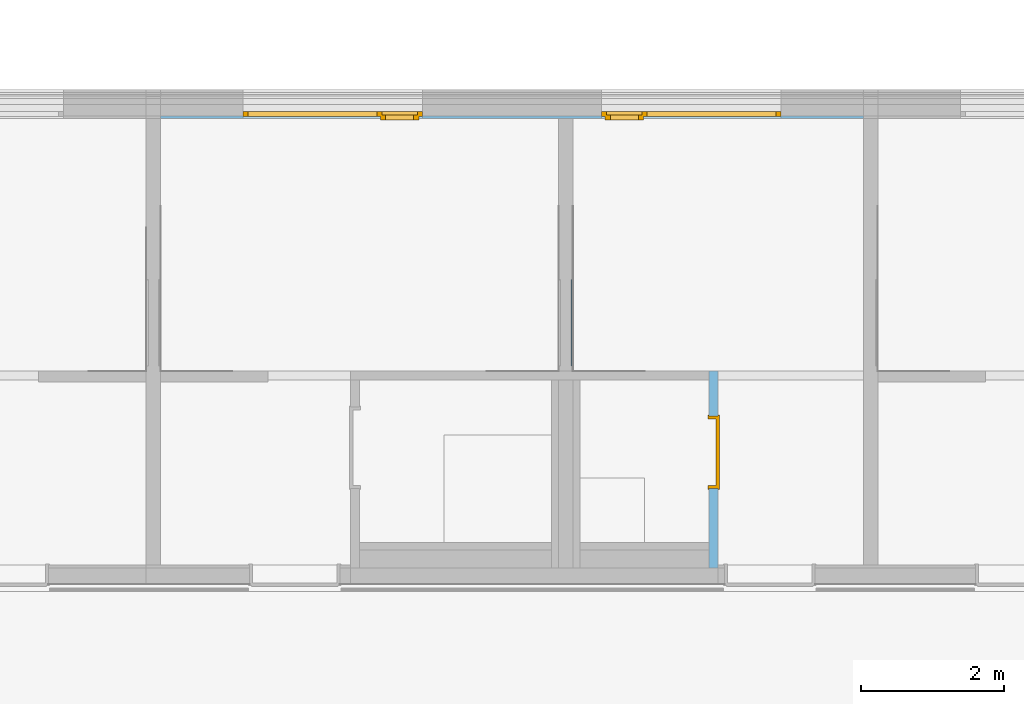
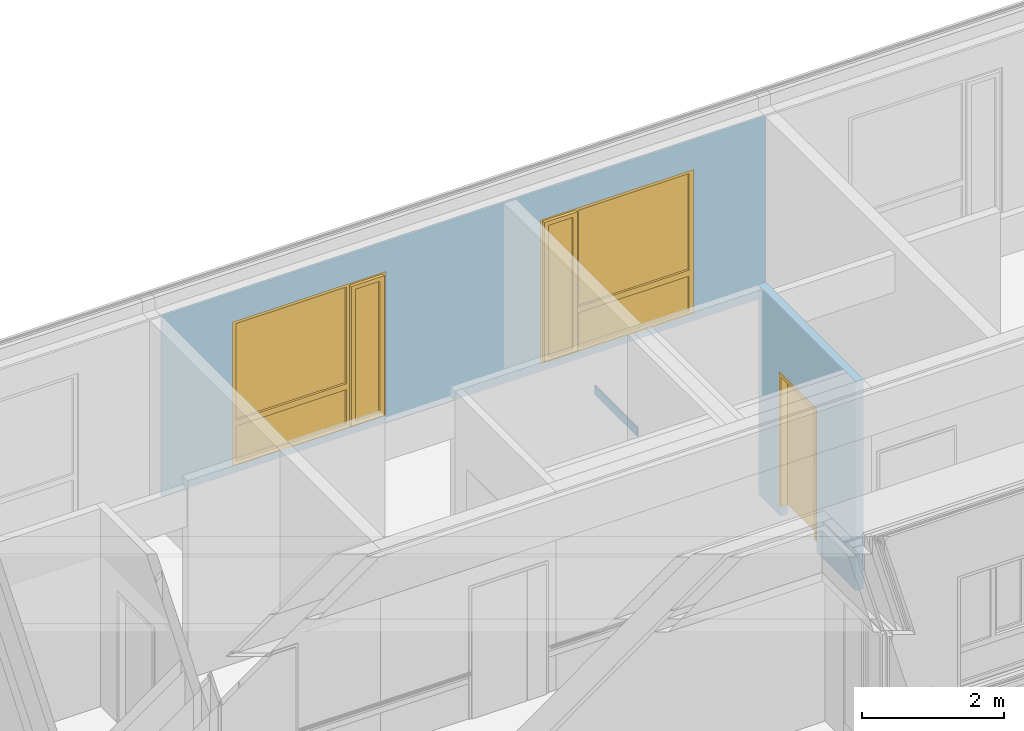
# One storey, part 111 of 207: 2 windows, 1 door, 1 wall, 3 openings, plus 2 elements that do not belong to this part.
"""IFC4 building model written with IfcOpenShell, lengths in metres."""

from ifc_helpers import new_model, entity, si_unit, converted_unit, derived_unit, frame, frame_2d, origin, origin_with_axes, place, context, subcontext, project, spatial, polyline, rectangle, outline, extrude, closed_shell, open_shell, faceted_brep, surface_model, source, transform, mapped, material, type_object, element, fill, save


model = new_model("IFC4")

# Units and contexts
model_context = context("Model", 3, precision=1e-05, world=origin())
body_context = subcontext(model_context, "Body", "Model", "MODEL_VIEW")
ifc_project = project(units=[si_unit("LENGTHUNIT", "METRE"), si_unit("AREAUNIT", "SQUARE_METRE"), si_unit("VOLUMEUNIT", "CUBIC_METRE"), si_unit("MASSUNIT", "GRAM", prefix="KILO"), converted_unit("PLANEANGLEUNIT", "DEGREE", entity("IfcPlaneAngleMeasure", 0.0174532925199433), si_unit("PLANEANGLEUNIT", "RADIAN"), dimensions=[0, 0, 0, 0, 0, 0, 0]), derived_unit("THERMALTRANSMITTANCEUNIT", [(si_unit("POWERUNIT", "WATT"), 1), (si_unit("THERMODYNAMICTEMPERATUREUNIT", "KELVIN"), -1), (si_unit("LENGTHUNIT", "METRE"), -2)]), derived_unit("VOLUMETRICFLOWRATEUNIT", [(si_unit("LENGTHUNIT", "METRE"), 3), (converted_unit("TIMEUNIT", "hour", entity("IfcTimeMeasure", 3600.0), si_unit("TIMEUNIT", "SECOND"), dimensions=[0, 0, 1, 0, 0, 0, 0]), -1), (si_unit("LENGTHUNIT", "METRE"), -1)])], contexts=[model_context])

# Site, building, storey
site_placement = place(None, origin())
site = spatial("IfcSite", under=ifc_project, at=site_placement, Name="Psychiatrie Neubau Wunstorf", CompositionType="ELEMENT")
building_placement = place(site_placement, origin())
building = spatial("IfcBuilding", under=site, at=building_placement, Name="Neubau H2 Stationsgebäude", CompositionType="ELEMENT")
storey_placement = place(building_placement, frame((0.0, 0.0, -0.2)))
storey = spatial("IfcBuildingStorey", under=building, at=storey_placement, Name="H2 Ebene 0", CompositionType="ELEMENT", Elevation=-0.2)

# Wall, openings, windows
ifc_material_1 = material(Name="WA-LB")
wall_1_placement = place(storey_placement, frame((10.1, 30.614, 0.5)))
wall_1 = element("IfcWall", 1, at=wall_1_placement, inside=storey, material=ifc_material_1, context=body_context, shape_type="SweptSolid", body=[
    extrude(rectangle(XDim=9.8, YDim=0.036, at=frame_2d((4.9, 0.018), x_axis=(1.0, 0.0))), origin_with_axes(), (0.0, 0.0, 1.0), 3.1),
])
opening_1_placement = place(wall_1_placement, frame((1.15, 0.0, 0.1), z_axis=(0.0, 1.0, 0.0), x_axis=(0.0, 0.0, 1.0)))
opening_1 = element("IfcOpeningElement", 2, at=opening_1_placement, cuts=wall_1, Name="Fensteröffnung", ObjectType="Opening", context=body_context, shape_type="SweptSolid", body=[
    extrude(outline(polyline([(2.5, 2.5), (2.5, 0.0), (0.0, 0.0), (0.0, 2.5), (2.5, 2.5)])), origin_with_axes(), (0.0, 0.0, 1.0), 0.036),
])
opening_2_placement = place(wall_1_placement, frame((6.15, 0.0, 0.1), z_axis=(0.0, 1.0, 0.0), x_axis=(0.0, 0.0, 1.0)))
opening_2 = element("IfcOpeningElement", 3, at=opening_2_placement, cuts=wall_1, Name="Fensteröffnung", ObjectType="Opening", context=body_context, shape_type="SweptSolid", body=[
    extrude(outline(polyline([(2.5, 2.5), (2.5, 0.0), (0.0, 0.0), (0.0, 2.5), (2.5, 2.5)])), origin_with_axes(), (0.0, 0.0, 1.0), 0.036),
])
shared_shape_1 = source(origin_with_axes(), body_context, "Body", "SurfaceModel", [
    surface_model("IfcShellBasedSurfaceModel", [(2.5, 0.0, 2.5), (2.5, 0.0, 0.0), (2.43, 0.0, 0.0), (2.43, 0.0, 2.5), (2.5, 0.0699999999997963, 0.0), (2.5, 0.0699999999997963, 2.5), (2.43, 0.0699999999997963, 2.5), (2.43, 0.0699999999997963, 0.0)], [closed_shell([[[0, 1, 2, 3]], [[4, 5, 6, 7]], [[1, 0, 5, 4]], [[2, 1, 4, 7]], [[3, 2, 7, 6]], [[0, 3, 6, 5]]], orient=[[False], [False], [False], [False], [False], [False]])]),
    surface_model("IfcShellBasedSurfaceModel", [(0.07, 0.0, 2.5), (0.07, 0.0, 0.0), (0.0, 0.0, 0.0), (0.0, 0.0, 2.5), (0.07, 0.0699999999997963, 0.0), (0.07, 0.0699999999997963, 2.5), (0.0, 0.0699999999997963, 2.5), (0.0, 0.0699999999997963, 0.0)], [closed_shell([[[0, 1, 2, 3]], [[4, 5, 6, 7]], [[1, 0, 5, 4]], [[2, 1, 4, 7]], [[3, 2, 7, 6]], [[0, 3, 6, 5]]], orient=[[False], [False], [False], [False], [False], [False]])]),
    surface_model("IfcShellBasedSurfaceModel", [(2.43, 0.0, 0.07), (2.43, 0.0, 0.0), (0.07, 0.0, 0.0), (0.07, 0.0, 0.07), (2.43, 0.0699999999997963, 0.0), (2.43, 0.0699999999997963, 0.07), (0.07, 0.0699999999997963, 0.07), (0.07, 0.0699999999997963, 0.0)], [closed_shell([[[0, 1, 2, 3]], [[4, 5, 6, 7]], [[1, 0, 5, 4]], [[2, 1, 4, 7]], [[3, 2, 7, 6]], [[0, 3, 6, 5]]], orient=[[False], [False], [False], [False], [False], [False]])]),
    surface_model("IfcShellBasedSurfaceModel", [(2.43, 0.0, 2.5), (2.43, 0.0, 2.43), (0.07, 0.0, 2.43), (0.07, 0.0, 2.5), (2.43, 0.0699999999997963, 2.43), (2.43, 0.0699999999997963, 2.5), (0.07, 0.0699999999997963, 2.5), (0.07, 0.0699999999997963, 2.43)], [closed_shell([[[0, 1, 2, 3]], [[4, 5, 6, 7]], [[1, 0, 5, 4]], [[2, 1, 4, 7]], [[3, 2, 7, 6]], [[0, 3, 6, 5]]], orient=[[False], [False], [False], [False], [False], [False]])]),
    surface_model("IfcShellBasedSurfaceModel", [(1.934285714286, 0.0, 2.43), (1.934285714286, 0.0, 0.07), (1.864285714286, 0.0, 0.07), (1.864285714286, 0.0, 2.43), (1.934285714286, 0.0699999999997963, 0.07), (1.934285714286, 0.0699999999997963, 2.43), (1.864285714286, 0.0699999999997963, 2.43), (1.864285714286, 0.0699999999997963, 0.07)], [closed_shell([[[0, 1, 2, 3]], [[4, 5, 6, 7]], [[1, 0, 5, 4]], [[2, 1, 4, 7]], [[3, 2, 7, 6]], [[0, 3, 6, 5]]], orient=[[False], [False], [False], [False], [False], [False]])]),
    surface_model("IfcShellBasedSurfaceModel", [(2.45, -0.0500000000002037, 2.45), (2.45, -0.0500000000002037, 0.05), (2.38, -0.0500000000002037, 0.05), (2.38, -0.0500000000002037, 2.45), (2.45, 0.0199999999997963, 0.05), (2.45, 0.0199999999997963, 2.45), (2.38, 0.0199999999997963, 2.45), (2.38, 0.0199999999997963, 0.05)], [closed_shell([[[0, 1, 2, 3]], [[4, 5, 6, 7]], [[1, 0, 5, 4]], [[2, 1, 4, 7]], [[3, 2, 7, 6]], [[0, 3, 6, 5]]], orient=[[False], [False], [False], [False], [False], [False]])]),
    surface_model("IfcShellBasedSurfaceModel", [(1.984285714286, -0.0500000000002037, 2.45), (1.984285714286, -0.0500000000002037, 0.05), (1.914285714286, -0.0500000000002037, 0.05), (1.914285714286, -0.0500000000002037, 2.45), (1.984285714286, 0.0199999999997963, 0.05), (1.984285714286, 0.0199999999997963, 2.45), (1.914285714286, 0.0199999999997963, 2.45), (1.914285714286, 0.0199999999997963, 0.05)], [closed_shell([[[0, 1, 2, 3]], [[4, 5, 6, 7]], [[1, 0, 5, 4]], [[2, 1, 4, 7]], [[3, 2, 7, 6]], [[0, 3, 6, 5]]], orient=[[False], [False], [False], [False], [False], [False]])]),
    surface_model("IfcShellBasedSurfaceModel", [(2.38, -0.0500000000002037, 0.12), (2.38, -0.0500000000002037, 0.05), (1.984285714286, -0.0500000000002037, 0.05), (1.984285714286, -0.0500000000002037, 0.12), (2.38, 0.0199999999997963, 0.05), (2.38, 0.0199999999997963, 0.12), (1.984285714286, 0.0199999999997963, 0.12), (1.984285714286, 0.0199999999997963, 0.05)], [closed_shell([[[0, 1, 2, 3]], [[4, 5, 6, 7]], [[1, 0, 5, 4]], [[2, 1, 4, 7]], [[3, 2, 7, 6]], [[0, 3, 6, 5]]], orient=[[False], [False], [False], [False], [False], [False]])]),
    surface_model("IfcShellBasedSurfaceModel", [(2.38, -0.0500000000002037, 2.45), (2.38, -0.0500000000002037, 2.38), (1.984285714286, -0.0500000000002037, 2.38), (1.984285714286, -0.0500000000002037, 2.45), (2.38, 0.0199999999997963, 2.38), (2.38, 0.0199999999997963, 2.45), (1.984285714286, 0.0199999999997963, 2.45), (1.984285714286, 0.0199999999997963, 2.38)], [closed_shell([[[0, 1, 2, 3]], [[4, 5, 6, 7]], [[1, 0, 5, 4]], [[2, 1, 4, 7]], [[3, 2, 7, 6]], [[0, 3, 6, 5]]], orient=[[False], [False], [False], [False], [False], [False]])]),
    surface_model("IfcShellBasedSurfaceModel", [(1.864285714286, 0.0, 0.77), (1.864285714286, 0.0, 0.67), (0.07, 0.0, 0.67), (0.07, 0.0, 0.77), (1.864285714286, 0.0699999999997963, 0.67), (1.864285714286, 0.0699999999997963, 0.77), (0.07, 0.0699999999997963, 0.77), (0.07, 0.0699999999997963, 0.67)], [closed_shell([[[0, 1, 2, 3]], [[4, 5, 6, 7]], [[1, 0, 5, 4]], [[2, 1, 4, 7]], [[3, 2, 7, 6]], [[0, 3, 6, 5]]], orient=[[False], [False], [False], [False], [False], [False]])]),
    surface_model("IfcShellBasedSurfaceModel", [(2.38, -0.0150000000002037, 0.12), (1.984285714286, -0.0150000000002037, 0.12), (1.984285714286, -0.0150000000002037, 2.38), (2.38, -0.0150000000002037, 2.38)], [open_shell([[[0, 1, 2, 3]]], orient=[[False]])]),
    surface_model("IfcShellBasedSurfaceModel", [(1.864285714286, 0.0349999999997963, 0.07), (0.07, 0.0349999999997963, 0.07), (0.07, 0.0349999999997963, 0.67), (1.864285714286, 0.0349999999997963, 0.67)], [open_shell([[[0, 1, 2, 3]]], orient=[[False]])]),
    surface_model("IfcShellBasedSurfaceModel", [(1.864285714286, 0.0349999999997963, 0.77), (0.07, 0.0349999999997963, 0.77), (0.07, 0.0349999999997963, 2.43), (1.864285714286, 0.0349999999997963, 2.43)], [open_shell([[[0, 1, 2, 3]]], orient=[[False]])]),
])
window_1_placement = place(opening_1_placement, frame((0.0, 0.0, 0.03), z_axis=(1.0, 0.0, 0.0), x_axis=(0.0, 1.0, 0.0)))
window_1 = element("IfcWindow", 4, at=window_1_placement, inside=storey, Name="Fenster", OverallHeight=2.5, OverallWidth=2.5, PartitioningType="USERDEFINED", PredefinedType="WINDOW", context=body_context, shape_type="MappedRepresentation", body=[
    mapped(shared_shape_1, transform((0.0, 0.0, 0.0), x_axis=(1.0, 0.0, 0.0), y_axis=(0.0, 1.0, 0.0), z_axis=(0.0, 0.0, 1.0), scale=1.0)),
])
fill(opening_1, window_1)
shared_shape_2 = source(origin_with_axes(), body_context, "Body", "SurfaceModel", [
    surface_model("IfcShellBasedSurfaceModel", [(0.0, 0.0, 2.5), (0.07, 0.0, 2.5), (0.07, 0.0, 0.0), (0.0, 0.0, 0.0), (0.0, 0.0699999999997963, 0.0), (0.07, 0.0699999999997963, 0.0), (0.07, 0.0699999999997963, 2.5), (0.0, 0.0699999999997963, 2.5)], [closed_shell([[[0, 1, 2, 3]], [[4, 5, 6, 7]], [[3, 4, 7, 0]], [[2, 5, 4, 3]], [[1, 6, 5, 2]], [[0, 7, 6, 1]]], orient=[[False], [False], [False], [False], [False], [False]])]),
    surface_model("IfcShellBasedSurfaceModel", [(2.43, 0.0, 2.5), (2.5, 0.0, 2.5), (2.5, 0.0, 0.0), (2.43, 0.0, 0.0), (2.43, 0.0699999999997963, 0.0), (2.5, 0.0699999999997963, 0.0), (2.5, 0.0699999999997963, 2.5), (2.43, 0.0699999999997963, 2.5)], [closed_shell([[[0, 1, 2, 3]], [[4, 5, 6, 7]], [[3, 4, 7, 0]], [[2, 5, 4, 3]], [[1, 6, 5, 2]], [[0, 7, 6, 1]]], orient=[[False], [False], [False], [False], [False], [False]])]),
    surface_model("IfcShellBasedSurfaceModel", [(0.07, 0.0, 0.07), (2.43, 0.0, 0.07), (2.43, 0.0, 0.0), (0.07, 0.0, 0.0), (0.07, 0.0699999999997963, 0.0), (2.43, 0.0699999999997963, 0.0), (2.43, 0.0699999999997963, 0.07), (0.07, 0.0699999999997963, 0.07)], [closed_shell([[[0, 1, 2, 3]], [[4, 5, 6, 7]], [[3, 4, 7, 0]], [[2, 5, 4, 3]], [[1, 6, 5, 2]], [[0, 7, 6, 1]]], orient=[[False], [False], [False], [False], [False], [False]])]),
    surface_model("IfcShellBasedSurfaceModel", [(0.07, 0.0, 2.5), (2.43, 0.0, 2.5), (2.43, 0.0, 2.43), (0.07, 0.0, 2.43), (0.07, 0.0699999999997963, 2.43), (2.43, 0.0699999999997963, 2.43), (2.43, 0.0699999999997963, 2.5), (0.07, 0.0699999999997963, 2.5)], [closed_shell([[[0, 1, 2, 3]], [[4, 5, 6, 7]], [[3, 4, 7, 0]], [[2, 5, 4, 3]], [[1, 6, 5, 2]], [[0, 7, 6, 1]]], orient=[[False], [False], [False], [False], [False], [False]])]),
    surface_model("IfcShellBasedSurfaceModel", [(0.565714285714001, 0.0, 2.43), (0.635714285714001, 0.0, 2.43), (0.635714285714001, 0.0, 0.07), (0.565714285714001, 0.0, 0.07), (0.565714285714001, 0.0699999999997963, 0.07), (0.635714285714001, 0.0699999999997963, 0.07), (0.635714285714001, 0.0699999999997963, 2.43), (0.565714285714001, 0.0699999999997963, 2.43)], [closed_shell([[[0, 1, 2, 3]], [[4, 5, 6, 7]], [[3, 4, 7, 0]], [[2, 5, 4, 3]], [[1, 6, 5, 2]], [[0, 7, 6, 1]]], orient=[[False], [False], [False], [False], [False], [False]])]),
    surface_model("IfcShellBasedSurfaceModel", [(0.05, -0.0500000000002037, 2.45), (0.12, -0.0500000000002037, 2.45), (0.12, -0.0500000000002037, 0.05), (0.05, -0.0500000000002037, 0.05), (0.05, 0.0199999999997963, 0.05), (0.12, 0.0199999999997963, 0.05), (0.12, 0.0199999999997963, 2.45), (0.05, 0.0199999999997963, 2.45)], [closed_shell([[[0, 1, 2, 3]], [[4, 5, 6, 7]], [[3, 4, 7, 0]], [[2, 5, 4, 3]], [[1, 6, 5, 2]], [[0, 7, 6, 1]]], orient=[[False], [False], [False], [False], [False], [False]])]),
    surface_model("IfcShellBasedSurfaceModel", [(0.515714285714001, -0.0500000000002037, 2.45), (0.585714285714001, -0.0500000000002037, 2.45), (0.585714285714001, -0.0500000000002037, 0.05), (0.515714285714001, -0.0500000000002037, 0.05), (0.515714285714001, 0.0199999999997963, 0.05), (0.585714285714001, 0.0199999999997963, 0.05), (0.585714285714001, 0.0199999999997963, 2.45), (0.515714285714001, 0.0199999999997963, 2.45)], [closed_shell([[[0, 1, 2, 3]], [[4, 5, 6, 7]], [[3, 4, 7, 0]], [[2, 5, 4, 3]], [[1, 6, 5, 2]], [[0, 7, 6, 1]]], orient=[[False], [False], [False], [False], [False], [False]])]),
    surface_model("IfcShellBasedSurfaceModel", [(0.12, -0.0500000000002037, 0.12), (0.515714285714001, -0.0500000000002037, 0.12), (0.515714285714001, -0.0500000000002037, 0.05), (0.12, -0.0500000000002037, 0.05), (0.12, 0.0199999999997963, 0.05), (0.515714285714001, 0.0199999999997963, 0.05), (0.515714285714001, 0.0199999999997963, 0.12), (0.12, 0.0199999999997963, 0.12)], [closed_shell([[[0, 1, 2, 3]], [[4, 5, 6, 7]], [[3, 4, 7, 0]], [[2, 5, 4, 3]], [[1, 6, 5, 2]], [[0, 7, 6, 1]]], orient=[[False], [False], [False], [False], [False], [False]])]),
    surface_model("IfcShellBasedSurfaceModel", [(0.12, -0.0500000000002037, 2.45), (0.515714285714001, -0.0500000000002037, 2.45), (0.515714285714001, -0.0500000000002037, 2.38), (0.12, -0.0500000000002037, 2.38), (0.12, 0.0199999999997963, 2.38), (0.515714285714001, 0.0199999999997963, 2.38), (0.515714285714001, 0.0199999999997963, 2.45), (0.12, 0.0199999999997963, 2.45)], [closed_shell([[[0, 1, 2, 3]], [[4, 5, 6, 7]], [[3, 4, 7, 0]], [[2, 5, 4, 3]], [[1, 6, 5, 2]], [[0, 7, 6, 1]]], orient=[[False], [False], [False], [False], [False], [False]])]),
    surface_model("IfcShellBasedSurfaceModel", [(0.635714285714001, 0.0, 0.77), (2.43, 0.0, 0.77), (2.43, 0.0, 0.67), (0.635714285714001, 0.0, 0.67), (0.635714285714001, 0.0699999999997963, 0.67), (2.43, 0.0699999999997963, 0.67), (2.43, 0.0699999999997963, 0.77), (0.635714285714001, 0.0699999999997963, 0.77)], [closed_shell([[[0, 1, 2, 3]], [[4, 5, 6, 7]], [[3, 4, 7, 0]], [[2, 5, 4, 3]], [[1, 6, 5, 2]], [[0, 7, 6, 1]]], orient=[[False], [False], [False], [False], [False], [False]])]),
    surface_model("IfcShellBasedSurfaceModel", [(0.12, -0.0150000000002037, 0.12), (0.12, -0.0150000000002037, 2.38), (0.515714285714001, -0.0150000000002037, 2.38), (0.515714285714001, -0.0150000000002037, 0.12)], [open_shell([[[0, 1, 2, 3]]], orient=[[False]])]),
    surface_model("IfcShellBasedSurfaceModel", [(0.635714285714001, 0.0349999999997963, 0.07), (0.635714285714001, 0.0349999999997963, 0.67), (2.43, 0.0349999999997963, 0.67), (2.43, 0.0349999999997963, 0.07)], [open_shell([[[0, 1, 2, 3]]], orient=[[False]])]),
    surface_model("IfcShellBasedSurfaceModel", [(0.635714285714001, 0.0349999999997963, 0.77), (0.635714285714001, 0.0349999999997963, 2.43), (2.43, 0.0349999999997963, 2.43), (2.43, 0.0349999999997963, 0.77)], [open_shell([[[0, 1, 2, 3]]], orient=[[False]])]),
])
window_2_placement = place(opening_2_placement, frame((0.0, 0.0, 0.03), z_axis=(1.0, 0.0, 0.0), x_axis=(0.0, 1.0, 0.0)))
window_2 = element("IfcWindow", 5, at=window_2_placement, inside=storey, Name="Fenster", OverallHeight=2.5, OverallWidth=2.5, PartitioningType="USERDEFINED", PredefinedType="WINDOW", context=body_context, shape_type="MappedRepresentation", body=[
    mapped(shared_shape_2, transform((0.0, 0.0, 0.0), x_axis=(1.0, 0.0, 0.0), y_axis=(0.0, 1.0, 0.0), z_axis=(0.0, 0.0, 1.0), scale=1.0)),
])
fill(opening_2, window_2)

# Wall, opening, door
ifc_material_2 = material(Name="WI-LB")
wall_2_placement = place(storey_placement, frame((17.875, 24.3495, 0.0), z_axis=(0.0, 0.0, 1.0), x_axis=(0.0, 1.0, 0.0)))
wall_2 = element("IfcWall", 6, at=wall_2_placement, inside=storey, material=ifc_material_2, context=body_context, shape_type="SweptSolid", body=[
    extrude(rectangle(XDim=2.73999999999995, YDim=0.125, at=frame_2d((1.36999999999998, 0.0625), x_axis=(1.0, 0.0))), origin_with_axes(), (0.0, 0.0, 1.0), 3.6),
])
opening_3_placement = place(wall_2_placement, frame((2.11499999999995, 0.125, 0.0), z_axis=(0.0, -1.0, 0.0), x_axis=(0.0, 0.0, 1.0)))
opening_3 = element("IfcOpeningElement", 7, at=opening_3_placement, cuts=wall_2, Name="Türöffnung", ObjectType="Opening", context=body_context, shape_type="SweptSolid", body=[
    extrude(outline(polyline([(2.46, 1.01), (2.46, 0.0), (0.0, 0.0), (0.0, 1.01), (2.46, 1.01)])), origin_with_axes(), (0.0, 0.0, 1.0), 0.125),
])
ifc_material_3 = material(Name="TI-1F-UZ-D-N")
door_type = type_object("IfcDoorType", Name="SMT", OperationType="SINGLE_SWING_RIGHT", ParameterTakesPrecedence=False, PredefinedType="DOOR")
shared_shape_3 = source(origin_with_axes(), body_context, "Body", "Brep", [
    faceted_brep([(-0.0399999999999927, 0.0124999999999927, 0.0), (0.0, 0.0124999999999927, 0.0), (0.0, 0.112499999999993, 0.0), (-0.0399999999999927, 0.112499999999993, 0.0), (-0.0399999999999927, 0.112499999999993, 3.6), (0.0, 0.112499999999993, 3.6), (0.0, 0.0124999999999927, 3.6), (-0.0399999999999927, 0.0124999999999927, 3.6)], [[[0, 1, 2, 3]], [[4, 5, 6, 7]], [[3, 4, 7, 0]], [[2, 5, 4, 3]], [[1, 6, 5, 2]], [[0, 7, 6, 1]]], orient=[[False], [False], [False], [False], [False], [False]]),
    faceted_brep([(1.01000000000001, 0.0124999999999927, 0.0), (1.05000000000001, 0.0124999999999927, 0.0), (1.05000000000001, 0.112499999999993, 0.0), (1.01000000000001, 0.112499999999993, 0.0), (1.01000000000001, 0.112499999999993, 3.6), (1.05000000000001, 0.112499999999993, 3.6), (1.05000000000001, 0.0124999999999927, 3.6), (1.01000000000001, 0.0124999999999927, 3.6)], [[[0, 1, 2, 3]], [[4, 5, 6, 7]], [[3, 4, 7, 0]], [[2, 5, 4, 3]], [[1, 6, 5, 2]], [[0, 7, 6, 1]]], orient=[[False], [False], [False], [False], [False], [False]]),
    faceted_brep([(0.0, 0.0124999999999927, 2.46), (1.01000000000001, 0.0124999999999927, 2.46), (1.01000000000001, 0.112499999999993, 2.46), (0.0, 0.112499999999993, 2.46), (0.0, 0.112499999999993, 2.5), (1.01000000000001, 0.112499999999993, 2.5), (1.01000000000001, 0.0124999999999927, 2.5), (0.0, 0.0124999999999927, 2.5)], [[[0, 1, 2, 3]], [[4, 5, 6, 7]], [[3, 4, 7, 0]], [[2, 5, 4, 3]], [[1, 6, 5, 2]], [[0, 7, 6, 1]]], orient=[[False], [False], [False], [False], [False], [False]]),
])
shared_shape_4 = source(origin_with_axes(), body_context, "Body", "Brep", [
    faceted_brep([(1.01000000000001, -0.0150000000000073, 2.46), (1.01000000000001, -0.0150000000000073, 0.2), (0.970000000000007, -0.0150000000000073, 0.2), (0.970000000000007, -0.0150000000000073, 2.46), (1.01000000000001, 0.139999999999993, 0.2), (1.01000000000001, 0.139999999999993, 2.46), (0.970000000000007, 0.139999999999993, 2.46), (0.970000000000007, 0.139999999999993, 0.2)], [[[0, 1, 2, 3]], [[4, 5, 6, 7]], [[1, 0, 5, 4]], [[2, 1, 4, 7]], [[3, 2, 7, 6]], [[0, 3, 6, 5]]], orient=[[False], [False], [False], [False], [False], [False]]),
    faceted_brep([(1.01000000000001, -0.0150000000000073, 2.475), (1.02500000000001, -0.0150000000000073, 2.475), (1.02500000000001, -0.0150000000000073, 0.2), (1.01000000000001, -0.0150000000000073, 0.2), (1.01000000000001, 0.0, 0.2), (1.02500000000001, 0.0, 0.2), (1.02500000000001, 0.0, 2.475), (1.01000000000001, 0.0, 2.475)], [[[0, 1, 2, 3]], [[4, 5, 6, 7]], [[3, 4, 7, 0]], [[2, 5, 4, 3]], [[1, 6, 5, 2]], [[0, 7, 6, 1]]], orient=[[False], [False], [False], [False], [False], [False]]),
    faceted_brep([(1.01000000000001, 0.124999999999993, 2.475), (1.02500000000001, 0.124999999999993, 2.475), (1.02500000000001, 0.124999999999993, 0.2), (1.01000000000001, 0.124999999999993, 0.2), (1.01000000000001, 0.139999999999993, 0.2), (1.02500000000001, 0.139999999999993, 0.2), (1.02500000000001, 0.139999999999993, 2.475), (1.01000000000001, 0.139999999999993, 2.475)], [[[0, 1, 2, 3]], [[4, 5, 6, 7]], [[3, 4, 7, 0]], [[2, 5, 4, 3]], [[1, 6, 5, 2]], [[0, 7, 6, 1]]], orient=[[False], [False], [False], [False], [False], [False]]),
    faceted_brep([(0.0400000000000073, -0.0150000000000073, 2.46), (0.0400000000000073, -0.0150000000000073, 0.2), (0.0, -0.0150000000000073, 0.2), (0.0, -0.0150000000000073, 2.46), (0.0400000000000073, 0.139999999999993, 0.2), (0.0400000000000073, 0.139999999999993, 2.46), (0.0, 0.139999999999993, 2.46), (0.0, 0.139999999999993, 0.2)], [[[0, 1, 2, 3]], [[4, 5, 6, 7]], [[1, 0, 5, 4]], [[2, 1, 4, 7]], [[3, 2, 7, 6]], [[0, 3, 6, 5]]], orient=[[False], [False], [False], [False], [False], [False]]),
    faceted_brep([(0.0, -0.0150000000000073, 2.475), (0.0, -0.0150000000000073, 0.2), (-0.0149999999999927, -0.0150000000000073, 0.2), (-0.0149999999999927, -0.0150000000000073, 2.475), (0.0, 0.0, 0.2), (0.0, 0.0, 2.475), (-0.0149999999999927, 0.0, 2.475), (-0.0149999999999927, 0.0, 0.2)], [[[0, 1, 2, 3]], [[4, 5, 6, 7]], [[1, 0, 5, 4]], [[2, 1, 4, 7]], [[3, 2, 7, 6]], [[0, 3, 6, 5]]], orient=[[False], [False], [False], [False], [False], [False]]),
    faceted_brep([(0.0, 0.124999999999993, 2.475), (0.0, 0.124999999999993, 0.2), (-0.0149999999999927, 0.124999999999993, 0.2), (-0.0149999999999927, 0.124999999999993, 2.475), (0.0, 0.139999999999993, 0.2), (0.0, 0.139999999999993, 2.475), (-0.0149999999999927, 0.139999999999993, 2.475), (-0.0149999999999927, 0.139999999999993, 0.2)], [[[0, 1, 2, 3]], [[4, 5, 6, 7]], [[1, 0, 5, 4]], [[2, 1, 4, 7]], [[3, 2, 7, 6]], [[0, 3, 6, 5]]], orient=[[False], [False], [False], [False], [False], [False]]),
    faceted_brep([(0.970000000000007, -0.0150000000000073, 2.46), (0.970000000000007, -0.0150000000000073, 2.42), (0.0400000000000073, -0.0150000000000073, 2.42), (0.0400000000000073, -0.0150000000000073, 2.46), (0.970000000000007, 0.139999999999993, 2.42), (0.970000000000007, 0.139999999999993, 2.46), (0.0400000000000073, 0.139999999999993, 2.46), (0.0400000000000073, 0.139999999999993, 2.42)], [[[0, 1, 2, 3]], [[4, 5, 6, 7]], [[1, 0, 5, 4]], [[2, 1, 4, 7]], [[3, 2, 7, 6]], [[0, 3, 6, 5]]], orient=[[False], [False], [False], [False], [False], [False]]),
    faceted_brep([(1.01000000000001, -0.0150000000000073, 2.475), (1.01000000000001, -0.0150000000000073, 2.46), (0.0, -0.0150000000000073, 2.46), (0.0, -0.0150000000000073, 2.475), (1.01000000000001, 0.0, 2.46), (1.01000000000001, 0.0, 2.475), (0.0, 0.0, 2.475), (0.0, 0.0, 2.46)], [[[0, 1, 2, 3]], [[4, 5, 6, 7]], [[1, 0, 5, 4]], [[2, 1, 4, 7]], [[3, 2, 7, 6]], [[0, 3, 6, 5]]], orient=[[False], [False], [False], [False], [False], [False]]),
    faceted_brep([(1.01000000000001, 0.124999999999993, 2.475), (1.01000000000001, 0.124999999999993, 2.46), (0.0, 0.124999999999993, 2.46), (0.0, 0.124999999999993, 2.475), (1.01000000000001, 0.139999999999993, 2.46), (1.01000000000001, 0.139999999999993, 2.475), (0.0, 0.139999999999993, 2.475), (0.0, 0.139999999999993, 2.46)], [[[0, 1, 2, 3]], [[4, 5, 6, 7]], [[1, 0, 5, 4]], [[2, 1, 4, 7]], [[3, 2, 7, 6]], [[0, 3, 6, 5]]], orient=[[False], [False], [False], [False], [False], [False]]),
    faceted_brep([(0.985000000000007, 0.0909999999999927, 2.435), (0.985000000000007, 0.0909999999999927, 0.2), (0.0250000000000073, 0.0909999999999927, 0.2), (0.0250000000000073, 0.0909999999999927, 2.435), (0.985000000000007, 0.140999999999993, 0.2), (0.985000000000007, 0.140999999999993, 2.435), (0.0250000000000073, 0.140999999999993, 2.435), (0.0250000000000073, 0.140999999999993, 0.2)], [[[0, 1, 2, 3]], [[4, 5, 6, 7]], [[1, 0, 5, 4]], [[2, 1, 4, 7]], [[3, 2, 7, 6]], [[0, 3, 6, 5]]], orient=[[False], [False], [False], [False], [False], [False]]),
])
door_placement = place(opening_3_placement, frame((0.0, 0.0, 0.0), z_axis=(1.0, 0.0, 0.0), x_axis=(0.0, 1.0, 0.0)))
door = element("IfcDoor", 8, at=door_placement, inside=storey, type_object=door_type, material=ifc_material_3, Name="SMT", OverallHeight=2.46, OverallWidth=1.01, context=body_context, shape_type="MappedRepresentation", body=[
    mapped(shared_shape_3, transform((0.0, 0.0, 0.0), x_axis=(1.0, 0.0, 0.0), y_axis=(0.0, 1.0, 0.0), z_axis=(0.0, 0.0, 1.0), scale=1.0)),
    mapped(shared_shape_4, transform((0.0, 0.0, 0.0), x_axis=(1.0, 0.0, 0.0), y_axis=(0.0, 1.0, 0.0), z_axis=(0.0, 0.0, 1.0), scale=1.0)),
])
fill(opening_3, door)

# Wall
wall_3_placement = place(storey_placement, frame((15.825, 27.1628367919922, 1.625)))
element("IfcWall", 9, at=wall_3_placement, inside=storey, Name="WV 1.1", context=body_context, shape_type="Brep", body=[
    faceted_brep([(0.025, 1.2, 0.0), (0.0, 1.2, 0.0), (0.0, 0.0, 0.0), (0.025, 0.0, 0.0), (0.0, 1.2, 0.15), (0.025, 1.2, 0.15), (0.025, 0.0, 0.15), (0.0, 0.0, 0.15)], [[[0, 1, 2, 3]], [[4, 5, 6, 7]], [[1, 0, 5, 4]], [[2, 1, 4, 7]], [[3, 2, 7, 6]], [[0, 3, 6, 5]]], orient=[[False], [False], [False], [False], [False], [False]]),
])

save(model, "model.ifc")
